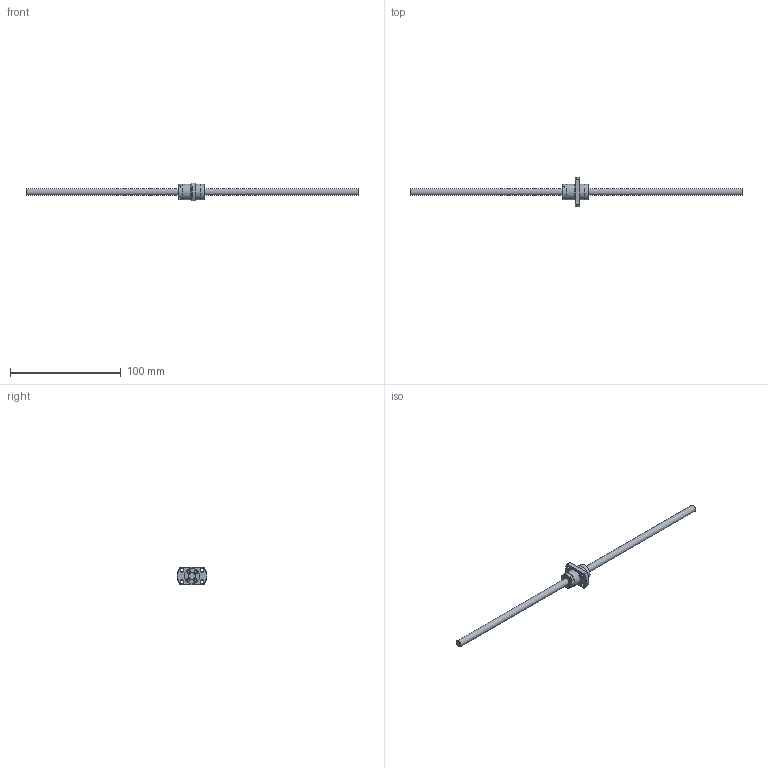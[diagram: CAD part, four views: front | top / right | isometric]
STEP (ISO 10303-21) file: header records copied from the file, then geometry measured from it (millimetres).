
FILE_DESCRIPTION( ( 'STEP AP214' ), ' ' );
FILE_NAME( 'p:/temp/worker_4/1548_2664/app_49_12015091121514710328854260eae72_000000_00_00_000000/format_0/SR0610-300R300C7(138).stp', '2015-09-11T19:51:47', ( '' ), ( '' ), ' ', 'PARTsolutions', ' ' );
FILE_SCHEMA( ( 'AUTOMOTIVE_DESIGN { 1 0 10303 214 1 1 1 1 }' ) );
Length unit declared in the file: millimetre
Products named in the file (3): SR0610-300R300C7(138); _SR0610(138)_shaft; _SR0610C7_nut
Assembly tree (2 placements, depth 2):
  SR0610-300R300C7(138)
    _SR0610(138)_shaft
    _SR0610C7_nut
Bounding box: 300 x 27 x 16 mm (x, y, z)
Volume: 12156.3 mm3; surface area: 8244.7 mm2
Topology: 2 solids, 2 shells, 82 faces, 193 edges, 128 vertices
Faces by surface type: plane 55, cylinder 21, cone 6
Full cylindrical faces by diameter (mm): 3 x4, 3.4 x4, 6 x2, 13.6 x1, 13.8 x2, 14 x2
Entity records: 3000 total; most frequent: CARTESIAN_POINT 411, DIRECTION 392, ORIENTED_EDGE 350, EDGE_CURVE 175, AXIS2_PLACEMENT_3D 140, VERTEX_POINT 127, EDGE_LOOP 122, LINE 112
